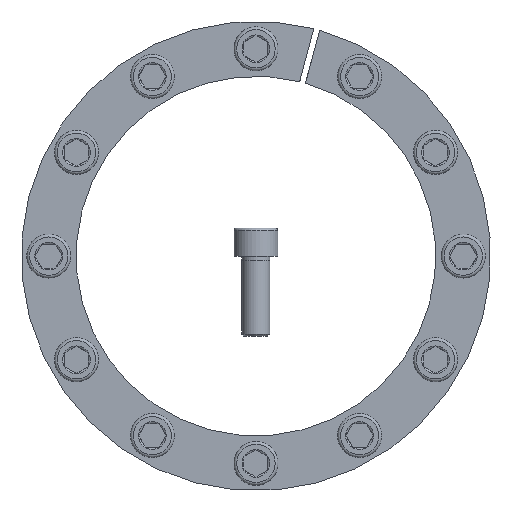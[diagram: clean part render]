
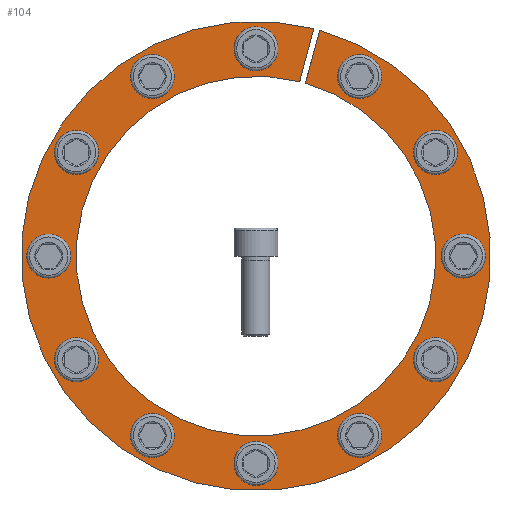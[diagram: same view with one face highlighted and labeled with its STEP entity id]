
A CAD part, front view. The second image highlights one B-rep face of the part: STEP entity #104.
In plain terms, the highlighted planar face has unit normal (0, -1, 0).
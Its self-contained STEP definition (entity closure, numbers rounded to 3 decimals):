
#104 = ADVANCED_FACE( '', ( #232, #233, #234, #235, #236, #237, #238, #239, #240, #241, #242, #243, #244 ), #245, .F. );
#232 = FACE_BOUND( '', #450, .T. );
#233 = FACE_BOUND( '', #451, .T. );
#234 = FACE_BOUND( '', #452, .T. );
#235 = FACE_BOUND( '', #453, .T. );
#236 = FACE_BOUND( '', #454, .T. );
#237 = FACE_BOUND( '', #455, .T. );
#238 = FACE_OUTER_BOUND( '', #456, .T. );
#239 = FACE_BOUND( '', #457, .T. );
#240 = FACE_BOUND( '', #458, .T. );
#241 = FACE_BOUND( '', #459, .T. );
#242 = FACE_BOUND( '', #460, .T. );
#243 = FACE_BOUND( '', #461, .T. );
#244 = FACE_BOUND( '', #462, .T. );
#245 = PLANE( '', #463 );
#450 = EDGE_LOOP( '', ( #742 ) );
#451 = EDGE_LOOP( '', ( #743 ) );
#452 = EDGE_LOOP( '', ( #744 ) );
#453 = EDGE_LOOP( '', ( #745 ) );
#454 = EDGE_LOOP( '', ( #746 ) );
#455 = EDGE_LOOP( '', ( #747 ) );
#456 = EDGE_LOOP( '', ( #748, #749, #750, #751 ) );
#457 = EDGE_LOOP( '', ( #752 ) );
#458 = EDGE_LOOP( '', ( #753 ) );
#459 = EDGE_LOOP( '', ( #754 ) );
#460 = EDGE_LOOP( '', ( #755 ) );
#461 = EDGE_LOOP( '', ( #756 ) );
#462 = EDGE_LOOP( '', ( #757 ) );
#463 = AXIS2_PLACEMENT_3D( '', #758, #759, #760 );
#742 = ORIENTED_EDGE( '', *, *, #1059, .T. );
#743 = ORIENTED_EDGE( '', *, *, #1060, .T. );
#744 = ORIENTED_EDGE( '', *, *, #1061, .T. );
#745 = ORIENTED_EDGE( '', *, *, #1062, .T. );
#746 = ORIENTED_EDGE( '', *, *, #1063, .T. );
#747 = ORIENTED_EDGE( '', *, *, #1048, .T. );
#748 = ORIENTED_EDGE( '', *, *, #1041, .F. );
#749 = ORIENTED_EDGE( '', *, *, #1036, .F. );
#750 = ORIENTED_EDGE( '', *, *, #1064, .T. );
#751 = ORIENTED_EDGE( '', *, *, #1065, .F. );
#752 = ORIENTED_EDGE( '', *, *, #1019, .T. );
#753 = ORIENTED_EDGE( '', *, *, #1013, .T. );
#754 = ORIENTED_EDGE( '', *, *, #1066, .T. );
#755 = ORIENTED_EDGE( '', *, *, #1067, .T. );
#756 = ORIENTED_EDGE( '', *, *, #1068, .T. );
#757 = ORIENTED_EDGE( '', *, *, #1069, .T. );
#758 = CARTESIAN_POINT( '', ( 0., 0., 117.5 ) );
#759 = DIRECTION( '', ( 0., 1., 0. ) );
#760 = DIRECTION( '', ( 0., 0., 1. ) );
#1013 = EDGE_CURVE( '', #1191, #1191, #1192, .T. );
#1019 = EDGE_CURVE( '', #1201, #1201, #1202, .T. );
#1036 = EDGE_CURVE( '', #1229, #1231, #1232, .T. );
#1041 = EDGE_CURVE( '', #1231, #1239, #1240, .T. );
#1048 = EDGE_CURVE( '', #1250, #1250, #1251, .T. );
#1059 = EDGE_CURVE( '', #1267, #1267, #1268, .T. );
#1060 = EDGE_CURVE( '', #1269, #1269, #1270, .T. );
#1061 = EDGE_CURVE( '', #1271, #1271, #1272, .T. );
#1062 = EDGE_CURVE( '', #1273, #1273, #1274, .T. );
#1063 = EDGE_CURVE( '', #1275, #1275, #1276, .T. );
#1064 = EDGE_CURVE( '', #1229, #1277, #1278, .T. );
#1065 = EDGE_CURVE( '', #1239, #1277, #1279, .T. );
#1066 = EDGE_CURVE( '', #1280, #1280, #1281, .T. );
#1067 = EDGE_CURVE( '', #1282, #1282, #1283, .T. );
#1068 = EDGE_CURVE( '', #1284, #1284, #1285, .T. );
#1069 = EDGE_CURVE( '', #1286, #1286, #1287, .T. );
#1191 = VERTEX_POINT( '', #1518 );
#1192 = CIRCLE( '', #1519, 7. );
#1201 = VERTEX_POINT( '', #1528 );
#1202 = CIRCLE( '', #1529, 7. );
#1229 = VERTEX_POINT( '', #1570 );
#1231 = VERTEX_POINT( '', #1573 );
#1232 = LINE( '', #1574, #1575 );
#1239 = VERTEX_POINT( '', #1584 );
#1240 = CIRCLE( '', #1585, 90. );
#1250 = VERTEX_POINT( '', #1596 );
#1251 = CIRCLE( '', #1597, 7. );
#1267 = VERTEX_POINT( '', #1614 );
#1268 = CIRCLE( '', #1615, 7. );
#1269 = VERTEX_POINT( '', #1616 );
#1270 = CIRCLE( '', #1617, 7. );
#1271 = VERTEX_POINT( '', #1618 );
#1272 = CIRCLE( '', #1619, 7. );
#1273 = VERTEX_POINT( '', #1620 );
#1274 = CIRCLE( '', #1621, 7. );
#1275 = VERTEX_POINT( '', #1622 );
#1276 = CIRCLE( '', #1623, 7. );
#1277 = VERTEX_POINT( '', #1624 );
#1278 = CIRCLE( '', #1625, 117.5 );
#1279 = LINE( '', #1626, #1627 );
#1280 = VERTEX_POINT( '', #1628 );
#1281 = CIRCLE( '', #1629, 7. );
#1282 = VERTEX_POINT( '', #1630 );
#1283 = CIRCLE( '', #1631, 7. );
#1284 = VERTEX_POINT( '', #1632 );
#1285 = CIRCLE( '', #1633, 7. );
#1286 = VERTEX_POINT( '', #1634 );
#1287 = CIRCLE( '', #1635, 7. );
#1518 = CARTESIAN_POINT( '', ( 103.75, 0., -7. ) );
#1519 = AXIS2_PLACEMENT_3D( '', #1764, #1765, #1766 );
#1528 = CARTESIAN_POINT( '', ( 57.937, 0., 86.35 ) );
#1529 = AXIS2_PLACEMENT_3D( '', #1776, #1777, #1778 );
#1570 = CARTESIAN_POINT( '', ( 28.96, 0., 113.875 ) );
#1573 = CARTESIAN_POINT( '', ( 21.842, 0., 87.309 ) );
#1574 = CARTESIAN_POINT( '', ( 28.962, 0., 113.885 ) );
#1575 = VECTOR( '', #1797, 1000. );
#1584 = CARTESIAN_POINT( '', ( 24.739, 0., 86.533 ) );
#1585 = AXIS2_PLACEMENT_3D( '', #1803, #1804, #1805 );
#1596 = CARTESIAN_POINT( '', ( 7., 0., 103.75 ) );
#1597 = AXIS2_PLACEMENT_3D( '', #1816, #1817, #1818 );
#1614 = CARTESIAN_POINT( '', ( -86.35, 0., 57.937 ) );
#1615 = AXIS2_PLACEMENT_3D( '', #1835, #1836, #1837 );
#1616 = CARTESIAN_POINT( '', ( -93.35, 0., -45.813 ) );
#1617 = AXIS2_PLACEMENT_3D( '', #1838, #1839, #1840 );
#1618 = CARTESIAN_POINT( '', ( -7., 0., -103.75 ) );
#1619 = AXIS2_PLACEMENT_3D( '', #1841, #1842, #1843 );
#1620 = CARTESIAN_POINT( '', ( 86.35, 0., -57.937 ) );
#1621 = AXIS2_PLACEMENT_3D( '', #1844, #1845, #1846 );
#1622 = CARTESIAN_POINT( '', ( 93.35, 0., 45.813 ) );
#1623 = AXIS2_PLACEMENT_3D( '', #1847, #1848, #1849 );
#1624 = CARTESIAN_POINT( '', ( 31.858, 0., 113.099 ) );
#1625 = AXIS2_PLACEMENT_3D( '', #1850, #1851, #1852 );
#1626 = CARTESIAN_POINT( '', ( 24.739, 0., 86.533 ) );
#1627 = VECTOR( '', #1853, 1000. );
#1628 = CARTESIAN_POINT( '', ( 45.813, 0., -93.35 ) );
#1629 = AXIS2_PLACEMENT_3D( '', #1854, #1855, #1856 );
#1630 = CARTESIAN_POINT( '', ( -57.937, 0., -86.35 ) );
#1631 = AXIS2_PLACEMENT_3D( '', #1857, #1858, #1859 );
#1632 = CARTESIAN_POINT( '', ( -103.75, 0., 7. ) );
#1633 = AXIS2_PLACEMENT_3D( '', #1860, #1861, #1862 );
#1634 = CARTESIAN_POINT( '', ( -45.813, 0., 93.35 ) );
#1635 = AXIS2_PLACEMENT_3D( '', #1863, #1864, #1865 );
#1764 = CARTESIAN_POINT( '', ( 103.75, 0., 0. ) );
#1765 = DIRECTION( '', ( 0., 1., 0. ) );
#1766 = DIRECTION( '', ( 0., 0., -1. ) );
#1776 = CARTESIAN_POINT( '', ( 51.875, 0., 89.85 ) );
#1777 = DIRECTION( '', ( 0., 1., 0. ) );
#1778 = DIRECTION( '', ( 0.866, 0., -0.5 ) );
#1797 = DIRECTION( '', ( -0.259, 0., -0.966 ) );
#1803 = CARTESIAN_POINT( '', ( 0., 0., 0. ) );
#1804 = DIRECTION( '', ( 0., -1., 0. ) );
#1805 = DIRECTION( '', ( 0., 0., -1. ) );
#1816 = CARTESIAN_POINT( '', ( 0., 0., 103.75 ) );
#1817 = DIRECTION( '', ( 0., 1., 0. ) );
#1818 = DIRECTION( '', ( 1., 0., 0. ) );
#1835 = CARTESIAN_POINT( '', ( -89.85, 0., 51.875 ) );
#1836 = DIRECTION( '', ( 0., 1., 0. ) );
#1837 = DIRECTION( '', ( 0.5, 0., 0.866 ) );
#1838 = CARTESIAN_POINT( '', ( -89.85, 0., -51.875 ) );
#1839 = DIRECTION( '', ( 0., 1., 0. ) );
#1840 = DIRECTION( '', ( -0.5, 0., 0.866 ) );
#1841 = CARTESIAN_POINT( '', ( 0., 0., -103.75 ) );
#1842 = DIRECTION( '', ( 0., 1., 0. ) );
#1843 = DIRECTION( '', ( -1., 0., 0. ) );
#1844 = CARTESIAN_POINT( '', ( 89.85, 0., -51.875 ) );
#1845 = DIRECTION( '', ( 0., 1., 0. ) );
#1846 = DIRECTION( '', ( -0.5, 0., -0.866 ) );
#1847 = CARTESIAN_POINT( '', ( 89.85, 0., 51.875 ) );
#1848 = DIRECTION( '', ( 0., 1., 0. ) );
#1849 = DIRECTION( '', ( 0.5, 0., -0.866 ) );
#1850 = CARTESIAN_POINT( '', ( 0., 0., 0. ) );
#1851 = DIRECTION( '', ( 0., -1., 0. ) );
#1852 = DIRECTION( '', ( 0., 0., -1. ) );
#1853 = DIRECTION( '', ( 0.259, 0., 0.966 ) );
#1854 = CARTESIAN_POINT( '', ( 51.875, 0., -89.85 ) );
#1855 = DIRECTION( '', ( 0., 1., 0. ) );
#1856 = DIRECTION( '', ( -0.866, 0., -0.5 ) );
#1857 = CARTESIAN_POINT( '', ( -51.875, 0., -89.85 ) );
#1858 = DIRECTION( '', ( 0., 1., 0. ) );
#1859 = DIRECTION( '', ( -0.866, 0., 0.5 ) );
#1860 = CARTESIAN_POINT( '', ( -103.75, 0., 0. ) );
#1861 = DIRECTION( '', ( 0., 1., 0. ) );
#1862 = DIRECTION( '', ( 0., 0., 1. ) );
#1863 = CARTESIAN_POINT( '', ( -51.875, 0., 89.85 ) );
#1864 = DIRECTION( '', ( 0., 1., 0. ) );
#1865 = DIRECTION( '', ( 0.866, 0., 0.5 ) );
